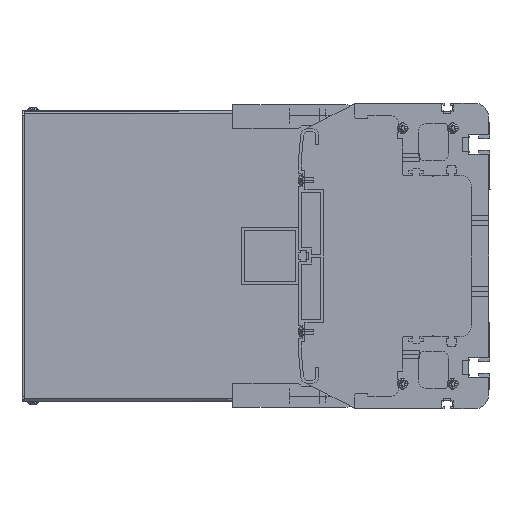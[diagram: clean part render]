
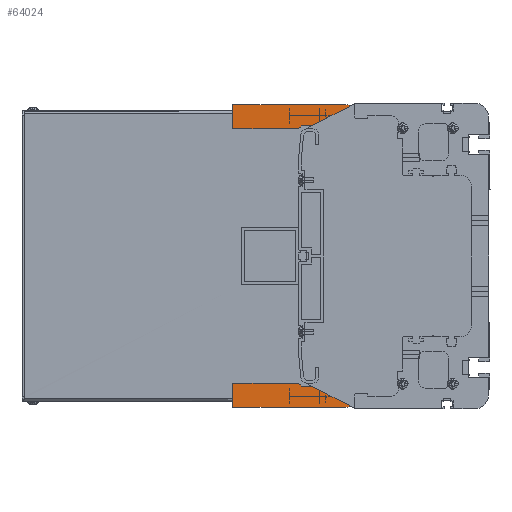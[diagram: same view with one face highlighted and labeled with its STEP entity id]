
A CAD part, left-side view. The second image highlights one B-rep face of the part: STEP entity #64024.
In plain terms, the highlighted planar face has unit normal (-1, 0, 0).
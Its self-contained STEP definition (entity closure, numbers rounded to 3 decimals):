
#59548=DIRECTION('',(0.,0.,1.));
#59549=VECTOR('',#59548,134.);
#59550=CARTESIAN_POINT('',(-434.5,111.,-67.));
#59551=LINE('',#59550,#59549);
#59813=DIRECTION('',(0.,1.,0.));
#59814=VECTOR('',#59813,46.);
#59815=CARTESIAN_POINT('',(-434.5,134.,-89.));
#59816=LINE('',#59815,#59814);
#60038=DIRECTION('',(0.,0.,1.));
#60039=VECTOR('',#60038,13.);
#60040=CARTESIAN_POINT('',(-434.5,114.5,-86.));
#60041=LINE('',#60040,#60039);
#60174=DIRECTION('',(0.,1.,0.));
#60175=VECTOR('',#60174,79.);
#60176=CARTESIAN_POINT('',(-434.5,101.,-106.));
#60177=LINE('',#60176,#60175);
#60178=DIRECTION('',(0.,-0.707,-0.707));
#60179=VECTOR('',#60178,2.828);
#60180=CARTESIAN_POINT('',(-434.5,134.,-89.));
#60181=LINE('',#60180,#60179);
#60182=CARTESIAN_POINT('',(-434.5,119.5,-86.));
#60183=DIRECTION('',(-1.,0.,0.));
#60184=DIRECTION('',(0.,0.,-1.));
#60185=AXIS2_PLACEMENT_3D('',#60182,#60183,#60184);
#60187=CARTESIAN_POINT('',(-434.5,119.5,86.));
#60188=DIRECTION('',(-1.,0.,0.));
#60189=DIRECTION('',(0.,-1.,0.));
#60190=AXIS2_PLACEMENT_3D('',#60187,#60188,#60189);
#60192=DIRECTION('',(0.,0.707,-0.707));
#60193=VECTOR('',#60192,2.828);
#60194=CARTESIAN_POINT('',(-434.5,132.,91.));
#60195=LINE('',#60194,#60193);
#60196=DIRECTION('',(0.,0.,-1.));
#60197=VECTOR('',#60196,17.);
#60198=CARTESIAN_POINT('',(-434.5,180.,106.));
#60199=LINE('',#60198,#60197);
#60200=DIRECTION('',(0.,-1.,0.));
#60201=VECTOR('',#60200,79.);
#60202=CARTESIAN_POINT('',(-434.5,180.,106.));
#60203=LINE('',#60202,#60201);
#60204=CARTESIAN_POINT('',(-434.5,101.,102.));
#60205=DIRECTION('',(1.,0.,0.));
#60206=DIRECTION('',(0.,0.,1.));
#60207=AXIS2_PLACEMENT_3D('',#60204,#60205,#60206);
#60209=CARTESIAN_POINT('',(-434.5,101.,-102.));
#60210=DIRECTION('',(1.,0.,0.));
#60211=DIRECTION('',(0.,-1.,0.));
#60212=AXIS2_PLACEMENT_3D('',#60209,#60210,#60211);
#60274=DIRECTION('',(0.,0.,1.));
#60275=VECTOR('',#60274,17.);
#60276=CARTESIAN_POINT('',(-434.5,180.,-106.));
#60277=LINE('',#60276,#60275);
#60470=DIRECTION('',(0.,0.,-1.));
#60471=VECTOR('',#60470,204.);
#60472=CARTESIAN_POINT('',(-434.5,97.,102.));
#60473=LINE('',#60472,#60471);
#60849=DIRECTION('',(0.,-1.,0.));
#60850=VECTOR('',#60849,46.);
#60851=CARTESIAN_POINT('',(-434.5,180.,89.));
#60852=LINE('',#60851,#60850);
#60900=DIRECTION('',(0.,1.,0.));
#60901=VECTOR('',#60900,12.5);
#60902=CARTESIAN_POINT('',(-434.5,119.5,91.));
#60903=LINE('',#60902,#60901);
#60970=DIRECTION('',(0.,0.,1.));
#60971=VECTOR('',#60970,13.);
#60972=CARTESIAN_POINT('',(-434.5,114.5,73.));
#60973=LINE('',#60972,#60971);
#61286=DIRECTION('',(0.,1.,0.));
#61287=VECTOR('',#61286,6.5);
#61288=CARTESIAN_POINT('',(-434.5,108.,73.));
#61289=LINE('',#61288,#61287);
#61294=DIRECTION('',(0.,0.,1.));
#61295=VECTOR('',#61294,6.);
#61296=CARTESIAN_POINT('',(-434.5,108.,67.));
#61297=LINE('',#61296,#61295);
#61302=DIRECTION('',(0.,-1.,0.));
#61303=VECTOR('',#61302,3.);
#61304=CARTESIAN_POINT('',(-434.5,111.,67.));
#61305=LINE('',#61304,#61303);
#62157=DIRECTION('',(0.,-1.,0.));
#62158=VECTOR('',#62157,12.5);
#62159=CARTESIAN_POINT('',(-434.5,132.,-91.));
#62160=LINE('',#62159,#62158);
#62161=DIRECTION('',(0.,-1.,0.));
#62162=VECTOR('',#62161,6.5);
#62163=CARTESIAN_POINT('',(-434.5,114.5,-73.));
#62164=LINE('',#62163,#62162);
#62173=DIRECTION('',(0.,0.,1.));
#62174=VECTOR('',#62173,6.);
#62175=CARTESIAN_POINT('',(-434.5,108.,-73.));
#62176=LINE('',#62175,#62174);
#62185=DIRECTION('',(0.,1.,0.));
#62186=VECTOR('',#62185,3.);
#62187=CARTESIAN_POINT('',(-434.5,108.,-67.));
#62188=LINE('',#62187,#62186);
#62473=CARTESIAN_POINT('',(-434.5,180.,106.));
#62475=VERTEX_POINT('',#62473);
#62479=CARTESIAN_POINT('',(-434.5,180.,89.));
#62480=VERTEX_POINT('',#62479);
#62494=CARTESIAN_POINT('',(-434.5,180.,-106.));
#62496=VERTEX_POINT('',#62494);
#62497=CARTESIAN_POINT('',(-434.5,180.,-89.));
#62498=VERTEX_POINT('',#62497);
#62513=CARTESIAN_POINT('',(-434.5,97.,102.));
#62514=CARTESIAN_POINT('',(-434.5,97.,-102.));
#62515=VERTEX_POINT('',#62513);
#62516=VERTEX_POINT('',#62514);
#62517=CARTESIAN_POINT('',(-434.5,101.,106.));
#62518=VERTEX_POINT('',#62517);
#62519=CARTESIAN_POINT('',(-434.5,132.,91.));
#62520=CARTESIAN_POINT('',(-434.5,134.,89.));
#62521=VERTEX_POINT('',#62519);
#62522=VERTEX_POINT('',#62520);
#62523=CARTESIAN_POINT('',(-434.5,119.5,91.));
#62524=VERTEX_POINT('',#62523);
#62525=CARTESIAN_POINT('',(-434.5,114.5,86.));
#62526=VERTEX_POINT('',#62525);
#62527=CARTESIAN_POINT('',(-434.5,114.5,73.));
#62528=VERTEX_POINT('',#62527);
#62529=CARTESIAN_POINT('',(-434.5,108.,73.));
#62530=VERTEX_POINT('',#62529);
#62531=CARTESIAN_POINT('',(-434.5,108.,67.));
#62532=VERTEX_POINT('',#62531);
#62533=CARTESIAN_POINT('',(-434.5,111.,67.));
#62534=VERTEX_POINT('',#62533);
#62535=CARTESIAN_POINT('',(-434.5,111.,-67.));
#62536=VERTEX_POINT('',#62535);
#62537=CARTESIAN_POINT('',(-434.5,108.,-67.));
#62538=VERTEX_POINT('',#62537);
#62539=CARTESIAN_POINT('',(-434.5,108.,-73.));
#62540=VERTEX_POINT('',#62539);
#62541=CARTESIAN_POINT('',(-434.5,114.5,-73.));
#62542=VERTEX_POINT('',#62541);
#62543=CARTESIAN_POINT('',(-434.5,114.5,-86.));
#62544=VERTEX_POINT('',#62543);
#62545=CARTESIAN_POINT('',(-434.5,119.5,-91.));
#62546=VERTEX_POINT('',#62545);
#62547=CARTESIAN_POINT('',(-434.5,132.,-91.));
#62548=VERTEX_POINT('',#62547);
#62549=CARTESIAN_POINT('',(-434.5,134.,-89.));
#62550=VERTEX_POINT('',#62549);
#62551=CARTESIAN_POINT('',(-434.5,101.,-106.));
#62552=VERTEX_POINT('',#62551);
#63973=CARTESIAN_POINT('',(-434.5,118.5,0.));
#63974=DIRECTION('',(1.,0.,0.));
#63975=DIRECTION('',(0.,0.,-1.));
#63976=AXIS2_PLACEMENT_3D('',#63973,#63974,#63975);
#63977=PLANE('',#63976);
#63979=ORIENTED_EDGE('',*,*,#63978,.T.);
#63981=ORIENTED_EDGE('',*,*,#63980,.T.);
#63982=ORIENTED_EDGE('',*,*,#63579,.F.);
#63984=ORIENTED_EDGE('',*,*,#63983,.T.);
#63986=ORIENTED_EDGE('',*,*,#63985,.T.);
#63987=ORIENTED_EDGE('',*,*,#63964,.T.);
#63988=ORIENTED_EDGE('',*,*,#63862,.T.);
#63990=ORIENTED_EDGE('',*,*,#63989,.T.);
#63992=ORIENTED_EDGE('',*,*,#63991,.T.);
#63994=ORIENTED_EDGE('',*,*,#63993,.T.);
#63995=ORIENTED_EDGE('',*,*,#63351,.T.);
#63997=ORIENTED_EDGE('',*,*,#63996,.T.);
#63999=ORIENTED_EDGE('',*,*,#63998,.T.);
#64001=ORIENTED_EDGE('',*,*,#64000,.T.);
#64003=ORIENTED_EDGE('',*,*,#64002,.T.);
#64005=ORIENTED_EDGE('',*,*,#64004,.T.);
#64007=ORIENTED_EDGE('',*,*,#64006,.T.);
#64009=ORIENTED_EDGE('',*,*,#64008,.T.);
#64011=ORIENTED_EDGE('',*,*,#64010,.F.);
#64013=ORIENTED_EDGE('',*,*,#64012,.F.);
#64015=ORIENTED_EDGE('',*,*,#64014,.T.);
#64017=ORIENTED_EDGE('',*,*,#64016,.T.);
#64019=ORIENTED_EDGE('',*,*,#64018,.T.);
#64021=ORIENTED_EDGE('',*,*,#64020,.T.);
#64022=EDGE_LOOP('',(#63979,#63981,#63982,#63984,#63986,#63987,#63988,#63990,
#63992,#63994,#63995,#63997,#63999,#64001,#64003,#64005,#64007,#64009,#64011,
#64013,#64015,#64017,#64019,#64021));
#64023=FACE_OUTER_BOUND('',#64022,.F.);
#64024=ADVANCED_FACE('',(#64023),#63977,.F.);
#60186=CIRCLE('',#60185,5.);
#60191=CIRCLE('',#60190,5.);
#60208=CIRCLE('',#60207,4.);
#60213=CIRCLE('',#60212,4.);
#63351=EDGE_CURVE('',#62536,#62534,#59551,.T.);
#63579=EDGE_CURVE('',#62550,#62498,#59816,.T.);
#63862=EDGE_CURVE('',#62544,#62542,#60041,.T.);
#63964=EDGE_CURVE('',#62546,#62544,#60186,.T.);
#63978=EDGE_CURVE('',#62552,#62496,#60177,.T.);
#63980=EDGE_CURVE('',#62496,#62498,#60277,.T.);
#63983=EDGE_CURVE('',#62550,#62548,#60181,.T.);
#63985=EDGE_CURVE('',#62548,#62546,#62160,.T.);
#63989=EDGE_CURVE('',#62542,#62540,#62164,.T.);
#63991=EDGE_CURVE('',#62540,#62538,#62176,.T.);
#63993=EDGE_CURVE('',#62538,#62536,#62188,.T.);
#63996=EDGE_CURVE('',#62534,#62532,#61305,.T.);
#63998=EDGE_CURVE('',#62532,#62530,#61297,.T.);
#64000=EDGE_CURVE('',#62530,#62528,#61289,.T.);
#64002=EDGE_CURVE('',#62528,#62526,#60973,.T.);
#64004=EDGE_CURVE('',#62526,#62524,#60191,.T.);
#64006=EDGE_CURVE('',#62524,#62521,#60903,.T.);
#64008=EDGE_CURVE('',#62521,#62522,#60195,.T.);
#64010=EDGE_CURVE('',#62480,#62522,#60852,.T.);
#64012=EDGE_CURVE('',#62475,#62480,#60199,.T.);
#64014=EDGE_CURVE('',#62475,#62518,#60203,.T.);
#64016=EDGE_CURVE('',#62518,#62515,#60208,.T.);
#64018=EDGE_CURVE('',#62515,#62516,#60473,.T.);
#64020=EDGE_CURVE('',#62516,#62552,#60213,.T.);
